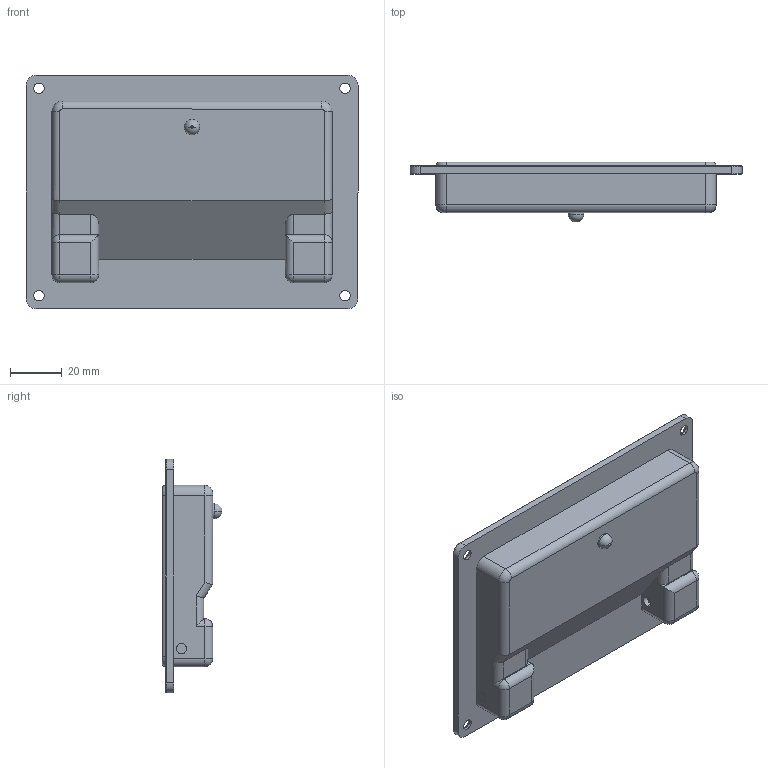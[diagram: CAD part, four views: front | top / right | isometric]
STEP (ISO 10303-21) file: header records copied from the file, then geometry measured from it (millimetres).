
FILE_DESCRIPTION (( 'STEP AP203' ), '1' );
FILE_NAME ('XG01-027-3.STEP', '2024-03-12T03:51:15', ( '' ), ( '' ), 'SwSTEP 2.0', 'SolidWorks 2020', '' );
FILE_SCHEMA (( 'CONFIG_CONTROL_DESIGN' ));
Length unit declared in the file: millimetre
Products named in the file (4): XG01-027-3; 饜璃; 饜璃2; PL003-1
Assembly tree (4 placements, depth 2):
  XG01-027-3
    PL003-1
    饜璃
    饜璃2  x2
Bounding box: 128 x 23.09 x 90 mm (x, y, z)
Volume: 90361 mm3; surface area: 51192.8 mm2
Topology: 6 solids, 6 shells, 257 faces, 617 edges, 358 vertices
Faces by surface type: cylinder 127, plane 66, torus 31, sphere 16, cone 10, bspline 7
Entity records: 8461 total; most frequent: CARTESIAN_POINT 2110, DIRECTION 1326, ORIENTED_EDGE 1188, EDGE_CURVE 594, AXIS2_PLACEMENT_3D 523, VERTEX_POINT 354, EDGE_LOOP 284, VECTOR 280
